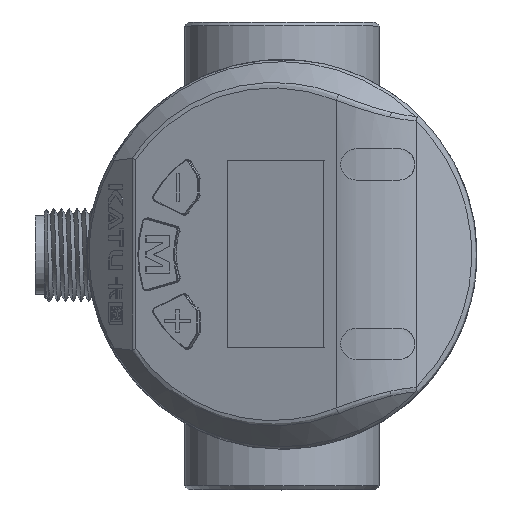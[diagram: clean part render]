
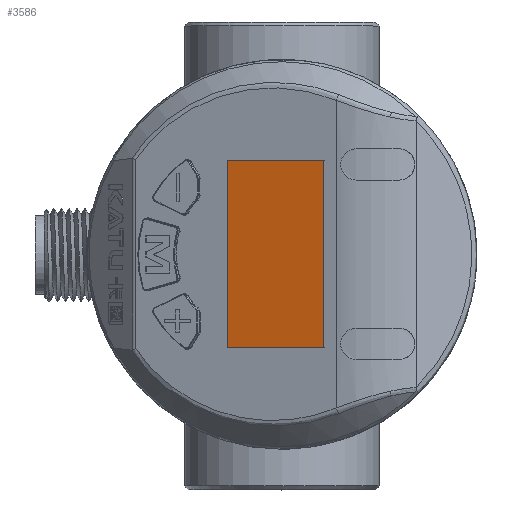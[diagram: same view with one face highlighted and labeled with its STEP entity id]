
A CAD part, top view. The second image highlights one B-rep face of the part: STEP entity #3586.
In plain terms, the highlighted planar face has unit normal (-0.342, 0, 0.94).
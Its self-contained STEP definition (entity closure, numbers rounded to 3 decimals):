
#1255=LINE('',#18607,#2005);
#1256=LINE('',#18610,#2006);
#1257=LINE('',#18612,#2007);
#1258=LINE('',#18614,#2008);
#2005=VECTOR('',#13181,1.);
#2006=VECTOR('',#13182,1.);
#2007=VECTOR('',#13183,1.);
#2008=VECTOR('',#13184,1.);
#3586=ADVANCED_FACE('',(#4467),#4076,.T.);
#4076=PLANE('',#11566);
#4467=FACE_OUTER_BOUND('',#5126,.T.);
#5126=EDGE_LOOP('',(#6509,#6510,#6511,#6512));
#6509=ORIENTED_EDGE('',*,*,#9849,.T.);
#6510=ORIENTED_EDGE('',*,*,#9850,.T.);
#6511=ORIENTED_EDGE('',*,*,#9851,.T.);
#6512=ORIENTED_EDGE('',*,*,#9852,.T.);
#8747=VERTEX_POINT('',#18608);
#8748=VERTEX_POINT('',#18609);
#8749=VERTEX_POINT('',#18611);
#8750=VERTEX_POINT('',#18613);
#9849=EDGE_CURVE('',#8747,#8748,#1255,.T.);
#9850=EDGE_CURVE('',#8748,#8749,#1256,.T.);
#9851=EDGE_CURVE('',#8749,#8750,#1257,.T.);
#9852=EDGE_CURVE('',#8750,#8747,#1258,.T.);
#11566=AXIS2_PLACEMENT_3D('',#18615,#13185,#13186);
#13181=DIRECTION('',(-0.94,0.,-0.342));
#13182=DIRECTION('',(0.,-1.,0.));
#13183=DIRECTION('',(0.94,0.,0.342));
#13184=DIRECTION('',(0.,1.,0.));
#13185=DIRECTION('',(-0.342,0.,0.94));
#13186=DIRECTION('',(-0.94,0.,-0.342));
#18607=CARTESIAN_POINT('',(45.306,12.006,121.2));
#18608=CARTESIAN_POINT('',(36.258,12.002,117.907));
#18609=CARTESIAN_POINT('',(23.939,11.997,113.423));
#18610=CARTESIAN_POINT('',(23.949,-15.759,113.427));
#18611=CARTESIAN_POINT('',(23.948,-11.997,113.426));
#18612=CARTESIAN_POINT('',(45.315,-11.988,121.203));
#18613=CARTESIAN_POINT('',(36.267,-11.992,117.91));
#18614=CARTESIAN_POINT('',(36.268,-15.753,117.91));
#18615=CARTESIAN_POINT('',(45.316,-15.75,121.204));
